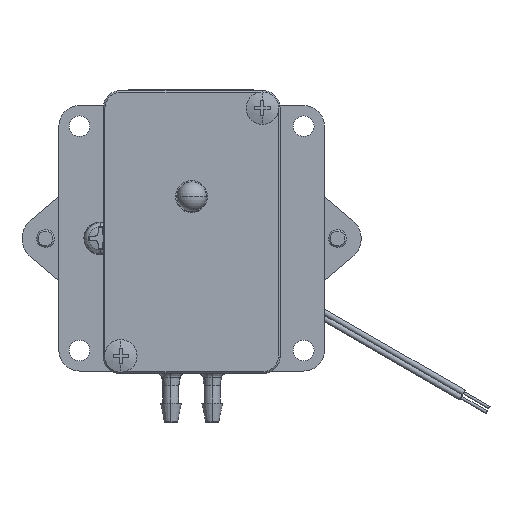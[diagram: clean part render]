
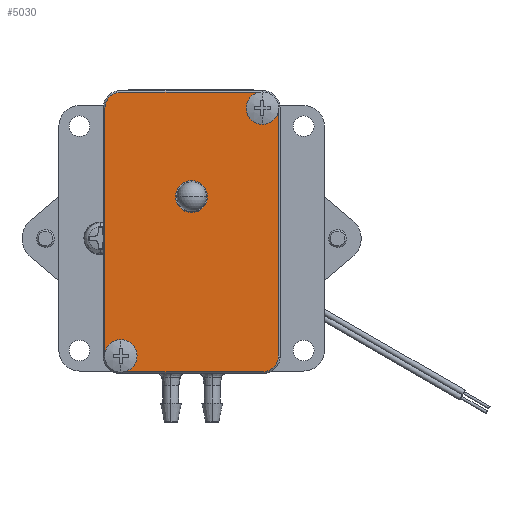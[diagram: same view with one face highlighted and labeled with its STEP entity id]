
A CAD part, top view. The second image highlights one B-rep face of the part: STEP entity #5030.
In plain terms, the highlighted planar face has unit normal (0, 0, 1).
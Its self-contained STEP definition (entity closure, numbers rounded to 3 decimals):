
#118 = CARTESIAN_POINT ( 'NONE',  ( 12., 15., 2.5 ) ) ;
#219 = VERTEX_POINT ( 'NONE', #8466 ) ;
#444 = CARTESIAN_POINT ( 'NONE',  ( 10.5, 15., 2.5 ) ) ;
#936 = EDGE_CURVE ( 'NONE', #27007, #15062, #1178, .T. ) ;
#963 = CARTESIAN_POINT ( 'NONE',  ( -14.7, -27., 2.5 ) ) ;
#1017 = EDGE_CURVE ( 'NONE', #15625, #6610, #12097, .T. ) ;
#1178 = LINE ( 'NONE', #10746, #14604 ) ;
#1227 = DIRECTION ( 'NONE',  ( -1., 0., 0. ) ) ;
#1558 = DIRECTION ( 'NONE',  ( -1., 0., 0. ) ) ;
#1705 = VERTEX_POINT ( 'NONE', #6605 ) ;
#2001 = EDGE_CURVE ( 'NONE', #219, #18204, #17687, .T. ) ;
#2021 = CARTESIAN_POINT ( 'NONE',  ( 14.7, -27., 2.5 ) ) ;
#2295 = LINE ( 'NONE', #11986, #25800 ) ;
#2316 = AXIS2_PLACEMENT_3D ( 'NONE', #24767, #17294, #3201 ) ;
#2339 = DIRECTION ( 'NONE',  ( 0., 0., 1. ) ) ;
#2649 = DIRECTION ( 'NONE',  ( 0., 0., -1. ) ) ;
#2865 = DIRECTION ( 'NONE',  ( -1., 0., 0. ) ) ;
#2897 = EDGE_LOOP ( 'NONE', ( #18601, #22440, #30133, #28308, #29334, #26653, #9497, #28523 ) ) ;
#3201 = DIRECTION ( 'NONE',  ( -1., 0., 0. ) ) ;
#3642 = DIRECTION ( 'NONE',  ( 0., 0., 1. ) ) ;
#3881 = CARTESIAN_POINT ( 'NONE',  ( -14.7, 15., 2.5 ) ) ;
#5030 = ADVANCED_FACE ( 'NONE', ( #17575, #5053, #29452, #27245 ), #5673, .F. ) ;
#5053 = FACE_OUTER_BOUND ( 'NONE', #2897, .T. ) ;
#5363 = CARTESIAN_POINT ( 'NONE',  ( 0., 0., 2.5 ) ) ;
#5673 = PLANE ( 'NONE',  #19415 ) ;
#5786 = CARTESIAN_POINT ( 'NONE',  ( 12., -29.7, 2.5 ) ) ;
#6402 = ORIENTED_EDGE ( 'NONE', *, *, #2001, .F. ) ;
#6605 = CARTESIAN_POINT ( 'NONE',  ( -13.5, -27., 2.5 ) ) ;
#6610 = VERTEX_POINT ( 'NONE', #3881 ) ;
#7338 = EDGE_CURVE ( 'NONE', #18204, #219, #7978, .T. ) ;
#7714 = EDGE_CURVE ( 'NONE', #6610, #26520, #2295, .T. ) ;
#7754 = EDGE_CURVE ( 'NONE', #8417, #13072, #12189, .T. ) ;
#7789 = LINE ( 'NONE', #29215, #12474 ) ;
#7916 = VECTOR ( 'NONE', #12533, 1000. ) ;
#7978 = CIRCLE ( 'NONE', #15969, 1.5 ) ;
#8114 = EDGE_CURVE ( 'NONE', #10440, #27007, #13190, .T. ) ;
#8196 = DIRECTION ( 'NONE',  ( -1., 0., 0. ) ) ;
#8355 = AXIS2_PLACEMENT_3D ( 'NONE', #12178, #2649, #26580 ) ;
#8417 = VERTEX_POINT ( 'NONE', #15923 ) ;
#8439 = DIRECTION ( 'NONE',  ( 0., 0., 1. ) ) ;
#8466 = CARTESIAN_POINT ( 'NONE',  ( 13.5, 15., 2.5 ) ) ;
#8612 = DIRECTION ( 'NONE',  ( 0., 0., 1. ) ) ;
#8720 = AXIS2_PLACEMENT_3D ( 'NONE', #30988, #21848, #9863 ) ;
#9497 = ORIENTED_EDGE ( 'NONE', *, *, #1017, .T. ) ;
#9498 = EDGE_CURVE ( 'NONE', #15062, #26997, #21963, .T. ) ;
#9863 = DIRECTION ( 'NONE',  ( 1., 0., 0. ) ) ;
#9965 = EDGE_CURVE ( 'NONE', #26997, #15625, #24553, .T. ) ;
#10347 = ORIENTED_EDGE ( 'NONE', *, *, #7338, .F. ) ;
#10440 = VERTEX_POINT ( 'NONE', #5786 ) ;
#10649 = DIRECTION ( 'NONE',  ( 0., 0., 1. ) ) ;
#10746 = CARTESIAN_POINT ( 'NONE',  ( 14.7, 15., 2.5 ) ) ;
#11219 = EDGE_CURVE ( 'NONE', #26520, #19819, #19352, .T. ) ;
#11701 = CARTESIAN_POINT ( 'NONE',  ( 14.7, 15., 2.5 ) ) ;
#11863 = CARTESIAN_POINT ( 'NONE',  ( -12., -29.7, 2.5 ) ) ;
#11884 = DIRECTION ( 'NONE',  ( 1., 0., 0. ) ) ;
#11919 = EDGE_CURVE ( 'NONE', #21662, #1705, #29980, .T. ) ;
#11986 = CARTESIAN_POINT ( 'NONE',  ( -14.7, -27., 2.5 ) ) ;
#12097 = CIRCLE ( 'NONE', #28744, 2.7 ) ;
#12178 = CARTESIAN_POINT ( 'NONE',  ( -12., -27., 2.5 ) ) ;
#12189 = CIRCLE ( 'NONE', #24804, 2.7 ) ;
#12474 = VECTOR ( 'NONE', #24322, 1000. ) ;
#12533 = DIRECTION ( 'NONE',  ( -1., 0., 0. ) ) ;
#12548 = DIRECTION ( 'NONE',  ( 0., 0., -1. ) ) ;
#12701 = AXIS2_PLACEMENT_3D ( 'NONE', #17908, #3642, #8196 ) ;
#13072 = VERTEX_POINT ( 'NONE', #26182 ) ;
#13190 = CIRCLE ( 'NONE', #12701, 2.7 ) ;
#13287 = CARTESIAN_POINT ( 'NONE',  ( 12., 15., 2.5 ) ) ;
#13532 = DIRECTION ( 'NONE',  ( 1., 0., 0. ) ) ;
#13830 = CARTESIAN_POINT ( 'NONE',  ( -12., 17.7, 2.5 ) ) ;
#14604 = VECTOR ( 'NONE', #29667, 1000. ) ;
#14755 = CARTESIAN_POINT ( 'NONE',  ( -12., 17.7, 2.5 ) ) ;
#15062 = VERTEX_POINT ( 'NONE', #11701 ) ;
#15625 = VERTEX_POINT ( 'NONE', #13830 ) ;
#15923 = CARTESIAN_POINT ( 'NONE',  ( 2.7, 0., 2.5 ) ) ;
#15969 = AXIS2_PLACEMENT_3D ( 'NONE', #118, #2339, #11884 ) ;
#17294 = DIRECTION ( 'NONE',  ( 0., 0., -1. ) ) ;
#17366 = EDGE_CURVE ( 'NONE', #13072, #8417, #29330, .T. ) ;
#17575 = FACE_BOUND ( 'NONE', #21739, .T. ) ;
#17687 = CIRCLE ( 'NONE', #21285, 1.5 ) ;
#17908 = CARTESIAN_POINT ( 'NONE',  ( 12., -27., 2.5 ) ) ;
#18204 = VERTEX_POINT ( 'NONE', #444 ) ;
#18374 = AXIS2_PLACEMENT_3D ( 'NONE', #25135, #8439, #1227 ) ;
#18601 = ORIENTED_EDGE ( 'NONE', *, *, #11219, .T. ) ;
#18819 = ORIENTED_EDGE ( 'NONE', *, *, #17366, .F. ) ;
#19352 = CIRCLE ( 'NONE', #19837, 2.7 ) ;
#19415 = AXIS2_PLACEMENT_3D ( 'NONE', #5363, #12548, #2865 ) ;
#19819 = VERTEX_POINT ( 'NONE', #11863 ) ;
#19837 = AXIS2_PLACEMENT_3D ( 'NONE', #27669, #8612, #1558 ) ;
#20257 = DIRECTION ( 'NONE',  ( 1., 0., 0. ) ) ;
#20346 = DIRECTION ( 'NONE',  ( 0., 0., 1. ) ) ;
#20776 = EDGE_LOOP ( 'NONE', ( #25881, #30978 ) ) ;
#21285 = AXIS2_PLACEMENT_3D ( 'NONE', #13287, #10649, #20257 ) ;
#21662 = VERTEX_POINT ( 'NONE', #26569 ) ;
#21664 = CARTESIAN_POINT ( 'NONE',  ( 12., 17.7, 2.5 ) ) ;
#21739 = EDGE_LOOP ( 'NONE', ( #26955, #18819 ) ) ;
#21848 = DIRECTION ( 'NONE',  ( 0., 0., 1. ) ) ;
#21941 = CIRCLE ( 'NONE', #8355, 1.5 ) ;
#21963 = CIRCLE ( 'NONE', #18374, 2.7 ) ;
#22440 = ORIENTED_EDGE ( 'NONE', *, *, #27109, .T. ) ;
#24322 = DIRECTION ( 'NONE',  ( 1., 0., 0. ) ) ;
#24553 = LINE ( 'NONE', #14755, #7916 ) ;
#24575 = EDGE_CURVE ( 'NONE', #1705, #21662, #21941, .T. ) ;
#24767 = CARTESIAN_POINT ( 'NONE',  ( -12., -27., 2.5 ) ) ;
#24804 = AXIS2_PLACEMENT_3D ( 'NONE', #27285, #27446, #13532 ) ;
#25135 = CARTESIAN_POINT ( 'NONE',  ( 12., 15., 2.5 ) ) ;
#25800 = VECTOR ( 'NONE', #28577, 1000. ) ;
#25881 = ORIENTED_EDGE ( 'NONE', *, *, #24575, .T. ) ;
#26182 = CARTESIAN_POINT ( 'NONE',  ( -2.7, 0., 2.5 ) ) ;
#26520 = VERTEX_POINT ( 'NONE', #963 ) ;
#26569 = CARTESIAN_POINT ( 'NONE',  ( -10.5, -27., 2.5 ) ) ;
#26580 = DIRECTION ( 'NONE',  ( -1., 0., 0. ) ) ;
#26653 = ORIENTED_EDGE ( 'NONE', *, *, #9965, .T. ) ;
#26955 = ORIENTED_EDGE ( 'NONE', *, *, #7754, .F. ) ;
#26997 = VERTEX_POINT ( 'NONE', #21664 ) ;
#27007 = VERTEX_POINT ( 'NONE', #2021 ) ;
#27109 = EDGE_CURVE ( 'NONE', #19819, #10440, #7789, .T. ) ;
#27245 = FACE_BOUND ( 'NONE', #20776, .T. ) ;
#27285 = CARTESIAN_POINT ( 'NONE',  ( 0., 0., 2.5 ) ) ;
#27446 = DIRECTION ( 'NONE',  ( 0., 0., 1. ) ) ;
#27609 = DIRECTION ( 'NONE',  ( -1., 0., 0. ) ) ;
#27669 = CARTESIAN_POINT ( 'NONE',  ( -12., -27., 2.5 ) ) ;
#28045 = EDGE_LOOP ( 'NONE', ( #6402, #10347 ) ) ;
#28308 = ORIENTED_EDGE ( 'NONE', *, *, #936, .T. ) ;
#28523 = ORIENTED_EDGE ( 'NONE', *, *, #7714, .T. ) ;
#28577 = DIRECTION ( 'NONE',  ( 0., -1., 0. ) ) ;
#28744 = AXIS2_PLACEMENT_3D ( 'NONE', #30129, #20346, #27609 ) ;
#29215 = CARTESIAN_POINT ( 'NONE',  ( 12., -29.7, 2.5 ) ) ;
#29330 = CIRCLE ( 'NONE', #8720, 2.7 ) ;
#29334 = ORIENTED_EDGE ( 'NONE', *, *, #9498, .T. ) ;
#29452 = FACE_BOUND ( 'NONE', #28045, .T. ) ;
#29667 = DIRECTION ( 'NONE',  ( 0., 1., 0. ) ) ;
#29980 = CIRCLE ( 'NONE', #2316, 1.5 ) ;
#30129 = CARTESIAN_POINT ( 'NONE',  ( -12., 15., 2.5 ) ) ;
#30133 = ORIENTED_EDGE ( 'NONE', *, *, #8114, .T. ) ;
#30978 = ORIENTED_EDGE ( 'NONE', *, *, #11919, .T. ) ;
#30988 = CARTESIAN_POINT ( 'NONE',  ( 0., 0., 2.5 ) ) ;
